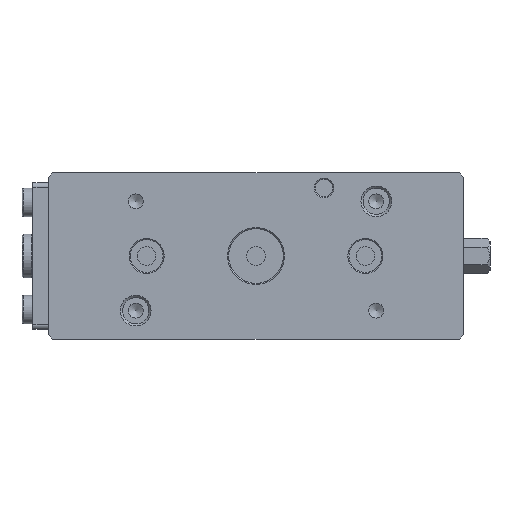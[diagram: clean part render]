
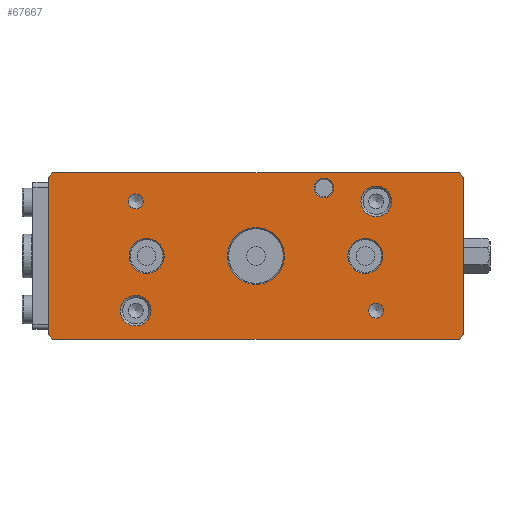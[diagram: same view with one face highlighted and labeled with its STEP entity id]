
A CAD part, front view. The second image highlights one B-rep face of the part: STEP entity #67667.
In plain terms, the highlighted planar face has unit normal (0, -1, 0).
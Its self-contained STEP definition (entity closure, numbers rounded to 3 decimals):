
#734 = AXIS2_PLACEMENT_3D ( 'NONE', #44998, #55097, #23141 ) ;
#935 = VERTEX_POINT ( 'NONE', #55030 ) ;
#1664 = ORIENTED_EDGE ( 'NONE', *, *, #41211, .T. ) ;
#2085 = DIRECTION ( 'NONE',  ( 0., 0., 1. ) ) ;
#2117 = LINE ( 'NONE', #3494, #27560 ) ;
#2308 = EDGE_CURVE ( 'NONE', #13649, #13649, #8441, .T. ) ;
#2609 = EDGE_CURVE ( 'NONE', #8421, #8421, #16258, .T. ) ;
#2676 = EDGE_CURVE ( 'NONE', #55212, #47956, #68770, .T. ) ;
#3070 = VECTOR ( 'NONE', #21316, 1000. ) ;
#3494 = CARTESIAN_POINT ( 'NONE',  ( 95., -56., 38. ) ) ;
#5378 = CARTESIAN_POINT ( 'NONE',  ( 95., -56., 38. ) ) ;
#5532 = ORIENTED_EDGE ( 'NONE', *, *, #24351, .F. ) ;
#5538 = CARTESIAN_POINT ( 'NONE',  ( 95., -56., 36. ) ) ;
#5607 = EDGE_LOOP ( 'NONE', ( #39627 ) ) ;
#5979 = CARTESIAN_POINT ( 'NONE',  ( 93., -56., -38. ) ) ;
#5995 = ORIENTED_EDGE ( 'NONE', *, *, #14986, .T. ) ;
#6669 = DIRECTION ( 'NONE',  ( -0.707, 0., -0.707 ) ) ;
#7684 = VECTOR ( 'NONE', #6669, 1000. ) ;
#8421 = VERTEX_POINT ( 'NONE', #47715 ) ;
#8441 = CIRCLE ( 'NONE', #734, 4.5 ) ;
#10208 = CARTESIAN_POINT ( 'NONE',  ( -95., -56., 38. ) ) ;
#10579 = CIRCLE ( 'NONE', #19468, 3.4 ) ;
#10784 = VECTOR ( 'NONE', #42563, 1000. ) ;
#11751 = CIRCLE ( 'NONE', #38398, 8. ) ;
#12311 = EDGE_CURVE ( 'NONE', #47956, #12751, #2117, .T. ) ;
#12751 = VERTEX_POINT ( 'NONE', #20220 ) ;
#12760 = DIRECTION ( 'NONE',  ( 0., 1., 0. ) ) ;
#13649 = VERTEX_POINT ( 'NONE', #56064 ) ;
#14136 = ORIENTED_EDGE ( 'NONE', *, *, #34072, .F. ) ;
#14268 = CARTESIAN_POINT ( 'NONE',  ( -93., -56., -38. ) ) ;
#14576 = DIRECTION ( 'NONE',  ( 0., 1., 0. ) ) ;
#14615 = EDGE_CURVE ( 'NONE', #41110, #41110, #48432, .T. ) ;
#14884 = AXIS2_PLACEMENT_3D ( 'NONE', #5378, #52655, #46764 ) ;
#14986 = EDGE_CURVE ( 'NONE', #15731, #15731, #11751, .T. ) ;
#15479 = FACE_BOUND ( 'NONE', #51323, .T. ) ;
#15731 = VERTEX_POINT ( 'NONE', #46677 ) ;
#16141 = FACE_BOUND ( 'NONE', #27159, .T. ) ;
#16258 = CIRCLE ( 'NONE', #39569, 8. ) ;
#16415 = DIRECTION ( 'NONE',  ( 0., -1., 0. ) ) ;
#16757 = LINE ( 'NONE', #42810, #20872 ) ;
#17294 = DIRECTION ( 'NONE',  ( 0., 0., 1. ) ) ;
#19468 = AXIS2_PLACEMENT_3D ( 'NONE', #54981, #16415, #54298 ) ;
#19561 = EDGE_LOOP ( 'NONE', ( #21023 ) ) ;
#19920 = CARTESIAN_POINT ( 'NONE',  ( -55., -56., -18. ) ) ;
#20220 = CARTESIAN_POINT ( 'NONE',  ( -93., -56., 38. ) ) ;
#20872 = VECTOR ( 'NONE', #43843, 1000. ) ;
#21023 = ORIENTED_EDGE ( 'NONE', *, *, #14615, .F. ) ;
#21316 = DIRECTION ( 'NONE',  ( 0., 0., -1. ) ) ;
#21974 = CARTESIAN_POINT ( 'NONE',  ( 0., -56., 13. ) ) ;
#23141 = DIRECTION ( 'NONE',  ( 0., 0., 1. ) ) ;
#23966 = VECTOR ( 'NONE', #30918, 1000. ) ;
#24351 = EDGE_CURVE ( 'NONE', #55212, #39911, #63674, .T. ) ;
#26570 = LINE ( 'NONE', #10208, #42135 ) ;
#26613 = FACE_BOUND ( 'NONE', #5607, .T. ) ;
#27159 = EDGE_LOOP ( 'NONE', ( #65077 ) ) ;
#27560 = VECTOR ( 'NONE', #55979, 1000. ) ;
#27795 = AXIS2_PLACEMENT_3D ( 'NONE', #67506, #30025, #34537 ) ;
#28765 = CIRCLE ( 'NONE', #60950, 13. ) ;
#29535 = AXIS2_PLACEMENT_3D ( 'NONE', #29602, #50809, #62259 ) ;
#29602 = CARTESIAN_POINT ( 'NONE',  ( 55., -56., -25. ) ) ;
#29662 = CARTESIAN_POINT ( 'NONE',  ( 95., -56., 36. ) ) ;
#29729 = ORIENTED_EDGE ( 'NONE', *, *, #67157, .F. ) ;
#30025 = DIRECTION ( 'NONE',  ( 0., 1., 0. ) ) ;
#30918 = DIRECTION ( 'NONE',  ( -1., 0., 0. ) ) ;
#31462 = PLANE ( 'NONE',  #14884 ) ;
#32306 = ORIENTED_EDGE ( 'NONE', *, *, #36682, .T. ) ;
#33453 = VERTEX_POINT ( 'NONE', #58823 ) ;
#33842 = ORIENTED_EDGE ( 'NONE', *, *, #12311, .T. ) ;
#34072 = EDGE_CURVE ( 'NONE', #43919, #54543, #58696, .T. ) ;
#34537 = DIRECTION ( 'NONE',  ( 0., 0., 1. ) ) ;
#35083 = DIRECTION ( 'NONE',  ( 0., 0., 1. ) ) ;
#35473 = CARTESIAN_POINT ( 'NONE',  ( 0., -56., 0. ) ) ;
#35963 = FACE_BOUND ( 'NONE', #38446, .T. ) ;
#36313 = AXIS2_PLACEMENT_3D ( 'NONE', #44512, #60478, #2085 ) ;
#36314 = FACE_OUTER_BOUND ( 'NONE', #67543, .T. ) ;
#36681 = FACE_BOUND ( 'NONE', #67049, .T. ) ;
#36682 = EDGE_CURVE ( 'NONE', #57800, #57800, #56327, .T. ) ;
#36958 = DIRECTION ( 'NONE',  ( 0., 0., -1. ) ) ;
#38081 = ORIENTED_EDGE ( 'NONE', *, *, #48838, .T. ) ;
#38299 = CARTESIAN_POINT ( 'NONE',  ( -95., -56., -36. ) ) ;
#38398 = AXIS2_PLACEMENT_3D ( 'NONE', #39189, #12760, #17294 ) ;
#38446 = EDGE_LOOP ( 'NONE', ( #67734 ) ) ;
#39189 = CARTESIAN_POINT ( 'NONE',  ( -50., -56., 0. ) ) ;
#39569 = AXIS2_PLACEMENT_3D ( 'NONE', #56303, #14576, #35083 ) ;
#39627 = ORIENTED_EDGE ( 'NONE', *, *, #2308, .T. ) ;
#39911 = VERTEX_POINT ( 'NONE', #43697 ) ;
#41110 = VERTEX_POINT ( 'NONE', #41441 ) ;
#41211 = EDGE_CURVE ( 'NONE', #12751, #935, #59869, .T. ) ;
#41441 = CARTESIAN_POINT ( 'NONE',  ( 55., -56., -28.4 ) ) ;
#41493 = EDGE_LOOP ( 'NONE', ( #5995 ) ) ;
#41525 = FACE_BOUND ( 'NONE', #19561, .T. ) ;
#42135 = VECTOR ( 'NONE', #36958, 1000. ) ;
#42563 = DIRECTION ( 'NONE',  ( 0.707, 0., 0.707 ) ) ;
#42763 = EDGE_CURVE ( 'NONE', #935, #43897, #26570, .T. ) ;
#42810 = CARTESIAN_POINT ( 'NONE',  ( -93., -56., -38. ) ) ;
#43181 = CARTESIAN_POINT ( 'NONE',  ( -93., -56., 38. ) ) ;
#43697 = CARTESIAN_POINT ( 'NONE',  ( 95., -56., -36. ) ) ;
#43843 = DIRECTION ( 'NONE',  ( 0.707, 0., -0.707 ) ) ;
#43897 = VERTEX_POINT ( 'NONE', #38299 ) ;
#43919 = VERTEX_POINT ( 'NONE', #5979 ) ;
#44198 = VERTEX_POINT ( 'NONE', #21974 ) ;
#44512 = CARTESIAN_POINT ( 'NONE',  ( -55., -56., -25. ) ) ;
#44998 = CARTESIAN_POINT ( 'NONE',  ( 31.113, -56., 31.113 ) ) ;
#45223 = DIRECTION ( 'NONE',  ( 0., 0., 1. ) ) ;
#46327 = EDGE_CURVE ( 'NONE', #43919, #39911, #54722, .T. ) ;
#46677 = CARTESIAN_POINT ( 'NONE',  ( -50., -56., 8. ) ) ;
#46764 = DIRECTION ( 'NONE',  ( 0., 0., 1. ) ) ;
#47715 = CARTESIAN_POINT ( 'NONE',  ( 50., -56., 8. ) ) ;
#47743 = CARTESIAN_POINT ( 'NONE',  ( 95., -56., 38. ) ) ;
#47805 = FACE_BOUND ( 'NONE', #41493, .T. ) ;
#47956 = VERTEX_POINT ( 'NONE', #47988 ) ;
#47988 = CARTESIAN_POINT ( 'NONE',  ( 93., -56., 38. ) ) ;
#48432 = CIRCLE ( 'NONE', #29535, 3.4 ) ;
#48838 = EDGE_CURVE ( 'NONE', #43897, #54543, #16757, .T. ) ;
#50809 = DIRECTION ( 'NONE',  ( 0., -1., 0. ) ) ;
#51323 = EDGE_LOOP ( 'NONE', ( #32306 ) ) ;
#51369 = EDGE_LOOP ( 'NONE', ( #62982 ) ) ;
#52655 = DIRECTION ( 'NONE',  ( 0., 1., 0. ) ) ;
#53823 = DIRECTION ( 'NONE',  ( -0.707, 0., 0.707 ) ) ;
#53913 = ORIENTED_EDGE ( 'NONE', *, *, #46327, .T. ) ;
#54240 = EDGE_CURVE ( 'NONE', #54636, #54636, #66581, .T. ) ;
#54285 = CARTESIAN_POINT ( 'NONE',  ( 55., -56., 32. ) ) ;
#54298 = DIRECTION ( 'NONE',  ( 0., 0., -1. ) ) ;
#54543 = VERTEX_POINT ( 'NONE', #14268 ) ;
#54556 = EDGE_CURVE ( 'NONE', #44198, #44198, #28765, .T. ) ;
#54636 = VERTEX_POINT ( 'NONE', #54285 ) ;
#54722 = LINE ( 'NONE', #64078, #10784 ) ;
#54981 = CARTESIAN_POINT ( 'NONE',  ( -55., -56., 25. ) ) ;
#55030 = CARTESIAN_POINT ( 'NONE',  ( -95., -56., 36. ) ) ;
#55087 = ORIENTED_EDGE ( 'NONE', *, *, #42763, .T. ) ;
#55097 = DIRECTION ( 'NONE',  ( 0., 1., 0. ) ) ;
#55212 = VERTEX_POINT ( 'NONE', #29662 ) ;
#55979 = DIRECTION ( 'NONE',  ( -1., 0., 0. ) ) ;
#56064 = CARTESIAN_POINT ( 'NONE',  ( 31.113, -56., 35.613 ) ) ;
#56303 = CARTESIAN_POINT ( 'NONE',  ( 50., -56., 0. ) ) ;
#56327 = CIRCLE ( 'NONE', #36313, 7. ) ;
#57800 = VERTEX_POINT ( 'NONE', #19920 ) ;
#58342 = CARTESIAN_POINT ( 'NONE',  ( 95., -56., -38. ) ) ;
#58553 = FACE_BOUND ( 'NONE', #51369, .T. ) ;
#58696 = LINE ( 'NONE', #58342, #23966 ) ;
#58823 = CARTESIAN_POINT ( 'NONE',  ( -55., -56., 21.6 ) ) ;
#59869 = LINE ( 'NONE', #43181, #7684 ) ;
#60478 = DIRECTION ( 'NONE',  ( 0., 1., 0. ) ) ;
#60950 = AXIS2_PLACEMENT_3D ( 'NONE', #35473, #61205, #45223 ) ;
#61205 = DIRECTION ( 'NONE',  ( 0., 1., 0. ) ) ;
#61350 = ORIENTED_EDGE ( 'NONE', *, *, #2676, .T. ) ;
#62259 = DIRECTION ( 'NONE',  ( 0., 0., -1. ) ) ;
#62982 = ORIENTED_EDGE ( 'NONE', *, *, #2609, .T. ) ;
#63674 = LINE ( 'NONE', #47743, #3070 ) ;
#64078 = CARTESIAN_POINT ( 'NONE',  ( 95., -56., -36. ) ) ;
#65045 = VECTOR ( 'NONE', #53823, 1000. ) ;
#65077 = ORIENTED_EDGE ( 'NONE', *, *, #54240, .T. ) ;
#66581 = CIRCLE ( 'NONE', #27795, 7. ) ;
#67049 = EDGE_LOOP ( 'NONE', ( #29729 ) ) ;
#67157 = EDGE_CURVE ( 'NONE', #33453, #33453, #10579, .T. ) ;
#67506 = CARTESIAN_POINT ( 'NONE',  ( 55., -56., 25. ) ) ;
#67543 = EDGE_LOOP ( 'NONE', ( #5532, #61350, #33842, #1664, #55087, #38081, #14136, #53913 ) ) ;
#67667 = ADVANCED_FACE ( 'NONE', ( #16141, #15479, #26613, #58553, #35963, #47805, #41525, #36681, #36314 ), #31462, .F. ) ;
#67734 = ORIENTED_EDGE ( 'NONE', *, *, #54556, .T. ) ;
#68770 = LINE ( 'NONE', #5538, #65045 ) ;
